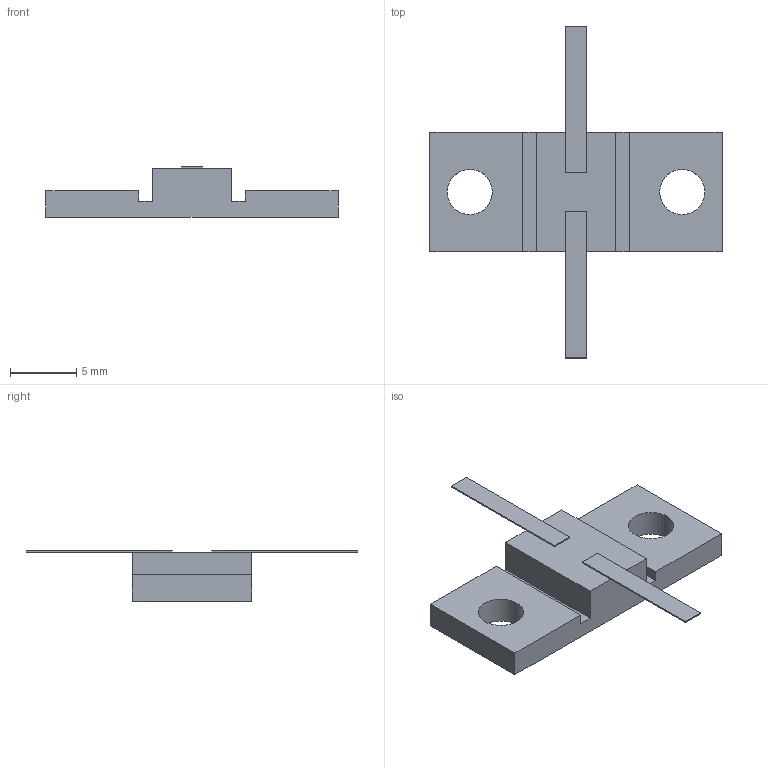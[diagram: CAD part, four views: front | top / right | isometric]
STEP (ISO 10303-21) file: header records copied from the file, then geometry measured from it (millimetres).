
FILE_DESCRIPTION(('STEP AP203'), '1');
FILE_NAME('Ð1-17-150', '', ('UNSPECIFIED'), ('UNSPECIFIED'), 'ASCON STEP Converter 1.6', 'ASCON Math Kernel', '');
FILE_SCHEMA(('CONFIG_CONTROL_DESIGN'));
Length unit declared in the file: millimetre
Bounding box: 22 x 25 x 3.8 mm (x, y, z)
Volume: 440.4 mm3; surface area: 668.7 mm2
Topology: 1 solids, 2 shells, 47 faces, 125 edges, 82 vertices
Faces by surface type: plane 41, cylinder 6
Full cylindrical faces by diameter (mm): 3.4 x2
Entity records: 1859 total; most frequent: CARTESIAN_POINT 253, ORIENTED_EDGE 246, DIRECTION 231, EDGE_CURVE 123, LINE 111, VECTOR 111, VERTEX_POINT 82, AXIS2_PLACEMENT_3D 60
